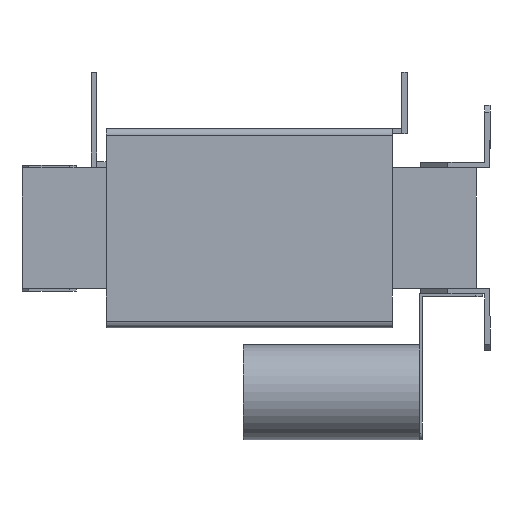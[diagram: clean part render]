
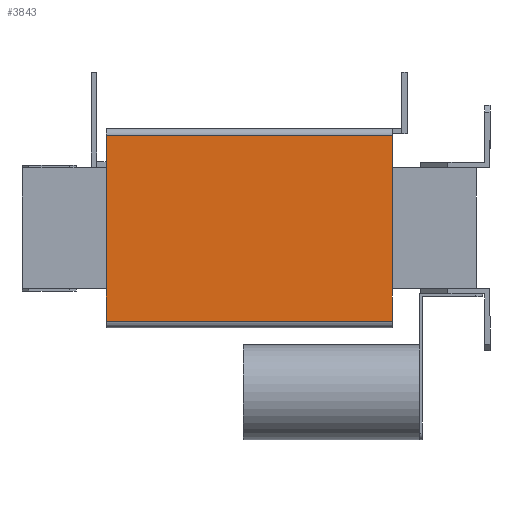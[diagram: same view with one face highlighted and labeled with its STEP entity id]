
A CAD part, left-side view. The second image highlights one B-rep face of the part: STEP entity #3843.
In plain terms, the highlighted planar face has unit normal (-1, 0, 0).
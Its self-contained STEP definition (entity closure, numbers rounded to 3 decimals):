
#347=FACE_OUTER_BOUND('',#587,.T.);
#587=EDGE_LOOP('',(#2983,#2984,#2985,#2986));
#921=LINE('',#5876,#1355);
#926=LINE('',#5895,#1360);
#930=LINE('',#5909,#1364);
#933=LINE('',#5915,#1367);
#1355=VECTOR('',#4778,10.);
#1360=VECTOR('',#4795,10.);
#1364=VECTOR('',#4807,10.);
#1367=VECTOR('',#4816,10.);
#1765=VERTEX_POINT('',#5874);
#1766=VERTEX_POINT('',#5875);
#1774=VERTEX_POINT('',#5893);
#1780=VERTEX_POINT('',#5907);
#2193=EDGE_CURVE('',#1765,#1766,#921,.T.);
#2203=EDGE_CURVE('',#1774,#1765,#926,.T.);
#2210=EDGE_CURVE('',#1774,#1780,#930,.T.);
#2213=EDGE_CURVE('',#1766,#1780,#933,.T.);
#2983=ORIENTED_EDGE('',*,*,#2203,.F.);
#2984=ORIENTED_EDGE('',*,*,#2210,.T.);
#2985=ORIENTED_EDGE('',*,*,#2213,.F.);
#2986=ORIENTED_EDGE('',*,*,#2193,.F.);
#3641=PLANE('',#4168);
#3843=ADVANCED_FACE('',(#347),#3641,.T.);
#4168=AXIS2_PLACEMENT_3D('',#5921,#4824,#4825);
#4778=DIRECTION('',(0.,0.,1.));
#4795=DIRECTION('',(0.,1.,0.));
#4807=DIRECTION('',(0.,0.,1.));
#4816=DIRECTION('',(0.,-1.,0.));
#4824=DIRECTION('center_axis',(-1.,0.,0.));
#4825=DIRECTION('ref_axis',(0.,0.,1.));
#5874=CARTESIAN_POINT('',(-285.,566.,-137.));
#5875=CARTESIAN_POINT('',(-285.,566.,137.));
#5876=CARTESIAN_POINT('',(-285.,566.,-137.));
#5893=CARTESIAN_POINT('',(-285.,144.,-137.));
#5895=CARTESIAN_POINT('',(-285.,144.,-137.));
#5907=CARTESIAN_POINT('',(-285.,144.,137.));
#5909=CARTESIAN_POINT('',(-285.,144.,-147.));
#5915=CARTESIAN_POINT('',(-285.,144.,137.));
#5921=CARTESIAN_POINT('Origin',(-285.,144.,-147.));
